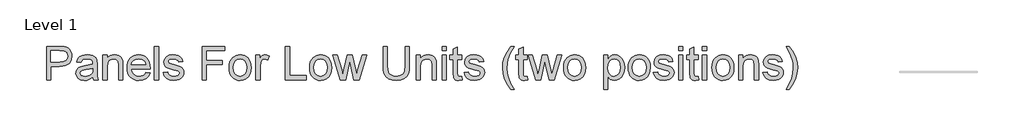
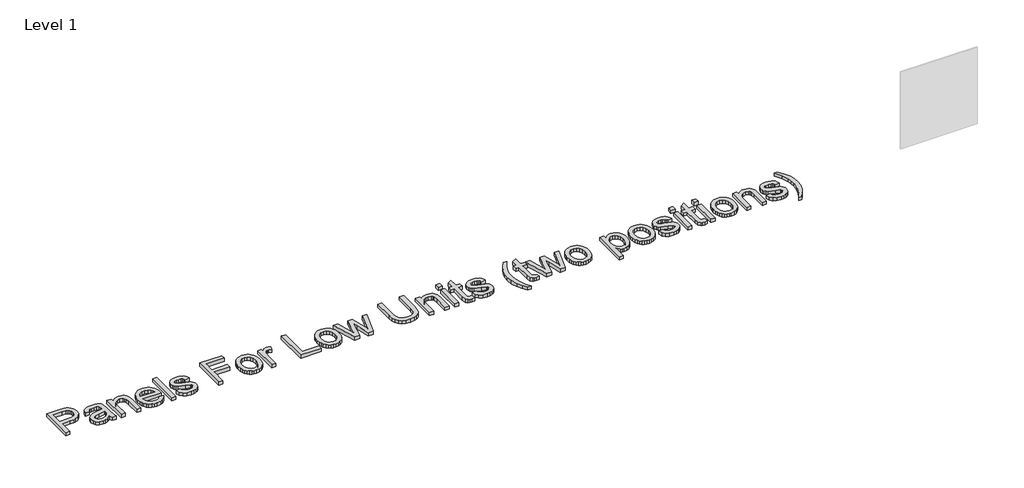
# One storey, part 3 of 5: 1 proxy.
"""IFC4 building model written with IfcOpenShell, lengths in millimetres."""

from ifc_helpers import new_model, si_unit, origin, origin_with_axes, place, context, project, spatial, polyline, outline, extrude, element, save

model = new_model("IFC4")

# Units and contexts
model_context = context("Model", 3, world=origin())
ifc_project = project(units=[si_unit("LENGTHUNIT", "METRE", prefix="MILLI")], contexts=[model_context])

# Site, building, storey
site = spatial("IfcSite", under=ifc_project)
building = spatial("IfcBuilding", under=site)
storey = spatial("IfcBuildingStorey", under=building, Name="Level 1", Elevation=0.0)

# Proxy
placement = place(None, origin())
element("IfcBuildingElementProxy", 1, Name="24\" Arial", ObjectType="24\" Arial", at=placement, inside=storey, context=model_context, shape_type="SweptSolid", body=[
    extrude(outline(polyline([(-20071.3800596, 3320.4023195), (-20071.3800596, 3570.4946272), (-19978.6944826, 3570.4946272), (-19941.3271749, 3568.1133772), (-19924.6660571, 3563.6637979), (-19910.950973, 3556.4208291), (-19899.9071629, 3546.0562858), (-19891.2598672, 3532.2419829), (-19885.6730884, 3515.9472113), (-19883.8108288, 3498.1412618), (-19888.8404562, 3468.6656608), (-19903.9293384, 3444.1052041), (-19916.0130373, 3434.4351921), (-19932.1456245, 3427.5280406), (-19952.3270998, 3423.3837498), (-19976.5574634, 3422.0023195), (-20040.1185211, 3422.0023195), (-20040.1185211, 3320.4023195), (-20071.3800596, 3320.4023195)]), holes=[polyline([(-20040.1185211, 3453.2638579), (-19974.7257326, 3453.2638579), (-19947.0055403, 3456.1335695), (-19928.6882326, 3464.7427041), (-19918.4763336, 3478.557007), (-19915.0723672, 3497.0422233), (-19917.0796389, 3511.0854926), (-19923.1014538, 3522.9306849), (-19932.3898552, 3531.8451079), (-19944.1968865, 3537.0960695), (-19975.4584249, 3539.2330887), (-20040.1185211, 3539.2330887), (-20040.1185211, 3453.2638579)])]), origin_with_axes(), (0.0, 0.0, 1.0), 25.4),
    extrude(outline(polyline([(-19727.5031365, 3343.8484733), (-19742.4393745, 3331.0416224), (-19757.8182807, 3322.6614541), (-19773.990937, 3318.0363339), (-19791.3084249, 3316.4946272), (-19817.433485, 3320.203882), (-19836.7048192, 3331.3316464), (-19848.5881725, 3348.2293628), (-19852.5492903, 3369.2484733), (-19851.0533769, 3382.2079685), (-19846.5656365, 3393.9768387), (-19830.8432807, 3411.9278003), (-19808.954098, 3422.1854926), (-19781.9055403, 3426.8869349), (-19727.6863096, 3437.6330887), (-19727.5031365, 3444.5936656), (-19729.6554201, 3458.5453483), (-19736.1122711, 3467.6734733), (-19750.5524153, 3474.4508772), (-19770.6709249, 3476.7100118), (-19789.2935211, 3475.2064661), (-19802.2988096, 3470.6958291), (-19811.1674394, 3462.3538219), (-19817.3800596, 3449.3561656), (-19848.641598, 3453.2638579), (-19843.2150956, 3470.3600118), (-19835.1173192, 3483.7927041), (-19823.5926797, 3494.0656608), (-19807.8855884, 3501.6826079), (-19788.675312, 3506.3993147), (-19766.6411172, 3507.9715503), (-19745.5075235, 3506.5824878), (-19728.7548192, 3502.4153003), (-19716.1235091, 3496.1492546), (-19707.354098, 3488.4636176), (-19697.7680403, 3467.2460695), (-19696.241598, 3439.8922233), (-19696.241598, 3400.9984733), (-19694.654098, 3346.687656), (-19688.4262134, 3320.4023195), (-19719.6877519, 3320.4023195), (-19727.5031365, 3343.8484733)]), holes=[polyline([(-19727.5031365, 3406.3715503), (-19777.9367903, 3396.7854926), (-19804.8327038, 3391.7177041), (-19817.0137134, 3383.4749156), (-19821.2877519, 3371.4465503), (-19818.9599273, 3362.1505166), (-19811.9764538, 3354.5335695), (-19800.4899754, 3349.4505166), (-19784.6531365, 3347.7561656), (-19767.8622711, 3349.6260575), (-19753.0252519, 3355.2357329), (-19740.9968865, 3363.501418), (-19732.6319826, 3373.3393387), (-19728.9227278, 3383.4749156), (-19727.6863096, 3397.5181849), (-19727.5031365, 3406.3715503)])]), origin_with_axes(), (0.0, 0.0, 1.0), 25.4),
    extrude(outline(polyline([(-19653.2569826, 3320.4023195), (-19653.2569826, 3504.0638579), (-19621.9954442, 3504.0638579), (-19621.9954442, 3478.4196272), (-19611.1348071, 3491.3485935), (-19598.0913576, 3500.5835695), (-19582.8650956, 3506.1245551), (-19565.4560211, 3507.9715503), (-19535.9346269, 3502.0184253), (-19524.1657567, 3495.1341704), (-19515.7855884, 3486.387656), (-19506.4132326, 3463.3994349), (-19504.7646749, 3433.1758772), (-19504.7646749, 3320.4023195), (-19536.0262134, 3320.4023195), (-19536.0262134, 3428.9628964), (-19539.6286172, 3456.622031), (-19544.6124514, 3464.8571873), (-19552.3591461, 3471.2453483), (-19573.8209249, 3476.7100118), (-19592.1306004, 3473.6418628), (-19607.738473, 3464.4374156), (-19618.4312014, 3446.6543628), (-19621.9954442, 3417.8503964), (-19621.9954442, 3320.4023195), (-19653.2569826, 3320.4023195)])), origin_with_axes(), (0.0, 0.0, 1.0), 25.4),
    extrude(outline(polyline([(-19333.1925596, 3375.1100118), (-19302.541598, 3371.2023195), (-19313.5854081, 3348.1072474), (-19331.2081846, 3330.8431849), (-19355.0130523, 3320.0817666), (-19384.6031365, 3316.4946272), (-19404.0004021, 3318.0420581), (-19421.2835451, 3322.6843507), (-19436.4525656, 3330.4215052), (-19449.5074634, 3341.2535214), (-19460.0055704, 3354.8789271), (-19467.5042182, 3370.9962498), (-19472.0034069, 3389.6054896), (-19473.5031365, 3410.7066464), (-19471.9881425, 3432.5233231), (-19467.4431605, 3451.7526801), (-19459.8681906, 3468.3947173), (-19449.2632326, 3482.4494349), (-19436.2426797, 3493.6153604), (-19421.4209249, 3501.5910214), (-19404.7979682, 3506.376418), (-19386.3738096, 3507.9715503), (-19368.5430553, 3506.3802342), (-19352.4181004, 3501.6062858), (-19337.9989448, 3493.6497053), (-19325.2855884, 3482.5104926), (-19314.9076888, 3468.4863039), (-19307.4949033, 3451.8747954), (-19303.047232, 3432.6759673), (-19301.5646749, 3410.8898195), (-19301.747848, 3402.4638579), (-19442.241598, 3402.4638579), (-19436.83036, 3379.0634974), (-19424.2601076, 3361.8604926), (-19406.1183408, 3351.2822474), (-19383.9925596, 3347.7561656), (-19367.3543384, 3349.3894589), (-19353.341598, 3354.2893387), (-19341.9543384, 3362.7610935), (-19333.1925596, 3375.1100118)]), holes=[polyline([(-19442.241598, 3433.7253964), (-19332.8262134, 3433.7253964), (-19337.0544586, 3450.2415022), (-19345.3430403, 3462.0561656), (-19363.5687615, 3473.0465503), (-19386.4959249, 3476.7100118), (-19407.568461, 3473.7868748), (-19424.9927999, 3465.0174637), (-19437.1051196, 3451.3481729), (-19442.241598, 3433.7253964)])]), origin_with_axes(), (0.0, 0.0, 1.0), 25.4),
    extrude(outline(polyline([(-19270.3031365, 3320.4023195), (-19270.3031365, 3570.4946272), (-19239.041598, 3570.4946272), (-19239.041598, 3320.4023195), (-19270.3031365, 3320.4023195)])), origin_with_axes(), (0.0, 0.0, 1.0), 25.4),
    extrude(outline(polyline([(-19203.8723672, 3375.1100118), (-19172.6108288, 3379.0177041), (-19167.6804201, 3365.6460695), (-19158.1401557, 3355.815781), (-19143.9289778, 3349.7710695), (-19124.9858288, 3347.7561656), (-19106.2716461, 3349.6031608), (-19093.1137134, 3355.1441464), (-19085.3288576, 3363.1732329), (-19082.7339057, 3372.484531), (-19085.3441221, 3380.4525599), (-19093.1747711, 3386.5278003), (-19125.3521749, 3395.4422233), (-19172.4276557, 3410.7371753), (-19184.3415379, 3418.4228123), (-19192.9735692, 3428.5965503), (-19198.2168985, 3440.6096512), (-19199.9646749, 3453.8133772), (-19194.3473672, 3477.1068868), (-19179.0218865, 3494.9052041), (-19159.1476076, 3504.1554445), (-19132.2516942, 3507.9715503), (-19111.9042182, 3506.4374757), (-19094.2127519, 3501.8352522), (-19079.9863096, 3494.6151801), (-19070.0339057, 3485.2275599), (-19063.4396749, 3472.9778604), (-19059.2877519, 3457.1715503), (-19090.5492903, 3453.2638579), (-19094.4951437, 3463.1017786), (-19102.3028961, 3470.512656), (-19114.0488696, 3475.1606729), (-19129.8093865, 3476.7100118), (-19147.760348, 3475.2293628), (-19159.7276557, 3470.7874156), (-19166.4592663, 3464.3763579), (-19168.7031365, 3456.9883772), (-19164.9786172, 3447.890781), (-19153.316598, 3440.9912618), (-19126.3901557, 3434.3359733), (-19080.5052999, 3419.6210695), (-19068.385348, 3412.5841704), (-19059.1961653, 3402.9523195), (-19053.4033168, 3390.6949878), (-19051.4723672, 3375.7816464), (-19053.7391341, 3360.3645791), (-19060.5394346, 3345.8633772), (-19071.6137735, 3333.4152402), (-19086.7026557, 3324.1573676), (-19104.9283769, 3318.4103123), (-19125.4132326, 3316.4946272), (-19156.9342663, 3320.1886176), (-19179.9377519, 3331.2705887), (-19195.2937615, 3349.6184253), (-19203.8723672, 3375.1100118)])), origin_with_axes(), (0.0, 0.0, 1.0), 25.4),
    extrude(outline(polyline([(-18914.7031365, 3320.4023195), (-18914.7031365, 3570.4946272), (-18746.6723672, 3570.4946272), (-18746.6723672, 3539.2330887), (-18883.441598, 3539.2330887), (-18883.441598, 3464.9869349), (-18766.2108288, 3464.9869349), (-18766.2108288, 3433.7253964), (-18883.441598, 3433.7253964), (-18883.441598, 3320.4023195), (-18914.7031365, 3320.4023195)])), origin_with_axes(), (0.0, 0.0, 1.0), 25.4),
    extrude(outline(polyline([(-18715.4108288, 3412.2330887), (-18713.7202939, 3436.018876), (-18708.6486894, 3456.5151801), (-18700.1960151, 3473.722001), (-18688.3622711, 3487.6393387), (-18663.2980884, 3502.8884974), (-18633.2882326, 3507.9715503), (-18616.0413426, 3506.4241194), (-18600.4468264, 3501.7818267), (-18586.504684, 3494.0446723), (-18574.2149153, 3483.212656), (-18564.1842813, 3469.6521242), (-18557.0195427, 3453.7294229), (-18552.7206996, 3435.4445521), (-18551.2877519, 3414.7975118), (-18553.8216461, 3383.2154204), (-18561.4233288, 3359.1739541), (-18573.8714658, 3341.1695671), (-18590.944723, 3327.6987137), (-18611.2235091, 3319.2956488), (-18633.2882326, 3316.4946272), (-18650.7869856, 3318.0363339), (-18666.5265139, 3322.6614541), (-18680.5068174, 3330.3699878), (-18692.7278961, 3341.1619349), (-18702.6516791, 3354.8541224), (-18709.7400956, 3371.2633772), (-18713.9931455, 3390.3896993), (-18715.4108288, 3412.2330887)]), holes=[polyline([(-18684.1492903, 3412.2941464), (-18680.5316221, 3384.0015382), (-18669.6786172, 3363.8448676), (-18653.3456846, 3351.7783411), (-18633.2882326, 3347.7561656), (-18613.3223672, 3351.8012378), (-18597.0199634, 3363.9364541), (-18586.1669586, 3384.3602522), (-18582.5492903, 3413.2710695), (-18586.1898552, 3440.7393988), (-18597.1115499, 3460.6213099), (-18613.4368504, 3472.6878363), (-18633.2882326, 3476.7100118), (-18653.3456846, 3472.7031007), (-18669.6786172, 3460.6823676), (-18680.5316221, 3440.5714902), (-18684.1492903, 3412.2941464)])]), origin_with_axes(), (0.0, 0.0, 1.0), 25.4),
    extrude(outline(polyline([(-18516.1185211, 3320.4023195), (-18516.1185211, 3504.0638579), (-18488.7646749, 3504.0638579), (-18488.7646749, 3476.8931849), (-18478.6596269, 3492.6460695), (-18469.3483288, 3501.9268387), (-18449.8098672, 3507.9715503), (-18434.2401557, 3505.5597714), (-18418.4262134, 3498.3244349), (-18428.8670788, 3470.2989541), (-18450.847848, 3476.7100118), (-18460.1820427, 3475.1683051), (-18468.5240499, 3470.5431849), (-18479.7891942, 3453.447031), (-18484.8569826, 3416.934531), (-18484.8569826, 3320.4023195), (-18516.1185211, 3320.4023195)])), origin_with_axes(), (0.0, 0.0, 1.0), 25.4),
    extrude(outline(polyline([(-18297.2877519, 3320.4023195), (-18297.2877519, 3570.4946272), (-18266.0262134, 3570.4946272), (-18266.0262134, 3351.6638579), (-18140.9800596, 3351.6638579), (-18140.9800596, 3320.4023195), (-18297.2877519, 3320.4023195)])), origin_with_axes(), (0.0, 0.0, 1.0), 25.4),
    extrude(outline(polyline([(-18117.5339057, 3412.2330887), (-18115.8433709, 3436.018876), (-18110.7717663, 3456.5151801), (-18102.319092, 3473.722001), (-18090.485348, 3487.6393387), (-18065.4211653, 3502.8884974), (-18035.4113096, 3507.9715503), (-18018.1644195, 3506.4241194), (-18002.5699033, 3501.7818267), (-17988.6277609, 3494.0446723), (-17976.3379922, 3483.212656), (-17966.3073582, 3469.6521242), (-17959.1426196, 3453.7294229), (-17954.8437765, 3435.4445521), (-17953.4108288, 3414.7975118), (-17955.944723, 3383.2154204), (-17963.5464057, 3359.1739541), (-17975.9945427, 3341.1695671), (-17993.0677999, 3327.6987137), (-18013.346586, 3319.2956488), (-18035.4113096, 3316.4946272), (-18052.9100626, 3318.0363339), (-18068.6495908, 3322.6614541), (-18082.6298943, 3330.3699878), (-18094.850973, 3341.1619349), (-18104.7747561, 3354.8541224), (-18111.8631725, 3371.2633772), (-18116.1162224, 3390.3896993), (-18117.5339057, 3412.2330887)]), holes=[polyline([(-18086.2723672, 3412.2941464), (-18082.654699, 3384.0015382), (-18071.8016942, 3363.8448676), (-18055.4687615, 3351.7783411), (-18035.4113096, 3347.7561656), (-18015.4454442, 3351.8012378), (-17999.1430403, 3363.9364541), (-17988.2900355, 3384.3602522), (-17984.6723672, 3413.2710695), (-17988.3129321, 3440.7393988), (-17999.2346269, 3460.6213099), (-18015.5599273, 3472.6878363), (-18035.4113096, 3476.7100118), (-18055.4687615, 3472.7031007), (-18071.8016942, 3460.6823676), (-18082.654699, 3440.5714902), (-18086.2723672, 3412.2941464)])]), origin_with_axes(), (0.0, 0.0, 1.0), 25.4),
    extrude(outline(polyline([(-17887.7738096, 3320.4023195), (-17943.641598, 3504.0638579), (-17911.1589057, 3504.0638579), (-17879.4699634, 3396.9076079), (-17870.0060211, 3358.6244349), (-17862.2516942, 3395.503281), (-17837.0348672, 3504.0638579), (-17799.7896749, 3504.0638579), (-17774.6949634, 3395.8085695), (-17767.7954442, 3362.4100118), (-17757.904098, 3397.6403003), (-17726.154098, 3504.0638579), (-17693.5492903, 3504.0638579), (-17749.8444826, 3320.4023195), (-17787.6391942, 3320.4023195), (-17811.6348672, 3428.1080887), (-17818.5954442, 3461.6898195), (-17849.5516942, 3320.4023195), (-17887.7738096, 3320.4023195)])), origin_with_axes(), (0.0, 0.0, 1.0), 25.4),
    extrude(outline(polyline([(-17406.3339057, 3570.4946272), (-17375.0723672, 3570.4946272), (-17375.0723672, 3426.2153003), (-17377.1941221, 3392.4274998), (-17383.5593865, 3366.4092906), (-17395.4503721, 3346.3365743), (-17414.1492903, 3330.3852522), (-17439.7019346, 3319.9672834), (-17472.154098, 3316.4946272), (-17503.8964658, 3319.5169829), (-17529.2735692, 3328.5840503), (-17548.2930403, 3343.3829084), (-17560.9625115, 3363.6006368), (-17568.0833648, 3390.7178844), (-17570.4569826, 3426.2153003), (-17570.4569826, 3570.4946272), (-17539.1954442, 3570.4946272), (-17539.1954442, 3427.3143387), (-17537.6537374, 3399.220168), (-17533.0286172, 3379.6588099), (-17524.648449, 3366.1116344), (-17511.841598, 3356.0600118), (-17495.1423192, 3349.8321272), (-17475.0848672, 3347.7561656), (-17443.289074, 3351.8622954), (-17422.147848, 3364.1806849), (-17415.2292483, 3374.2857329), (-17410.2873913, 3388.1763579), (-17406.3339057, 3427.3143387), (-17406.3339057, 3570.4946272)])), origin_with_axes(), (0.0, 0.0, 1.0), 25.4),
    extrude(outline(polyline([(-17324.2723672, 3320.4023195), (-17324.2723672, 3504.0638579), (-17293.0108288, 3504.0638579), (-17293.0108288, 3478.4196272), (-17282.1501918, 3491.3485935), (-17269.1067422, 3500.5835695), (-17253.8804802, 3506.1245551), (-17236.4714057, 3507.9715503), (-17206.9500115, 3502.0184253), (-17195.1811413, 3495.1341704), (-17186.800973, 3486.387656), (-17177.4286172, 3463.3994349), (-17175.7800596, 3433.1758772), (-17175.7800596, 3320.4023195), (-17207.041598, 3320.4023195), (-17207.041598, 3428.9628964), (-17210.6440019, 3456.622031), (-17215.627836, 3464.8571873), (-17223.3745307, 3471.2453483), (-17244.8363096, 3476.7100118), (-17263.145985, 3473.6418628), (-17278.7538576, 3464.4374156), (-17289.446586, 3446.6543628), (-17293.0108288, 3417.8503964), (-17293.0108288, 3320.4023195), (-17324.2723672, 3320.4023195)])), origin_with_axes(), (0.0, 0.0, 1.0), 25.4),
    extrude(outline(polyline([(-17132.7954442, 3320.4023195), (-17132.7954442, 3504.0638579), (-17101.5339057, 3504.0638579), (-17101.5339057, 3320.4023195), (-17132.7954442, 3320.4023195)])), origin_with_axes(), (0.0, 0.0, 1.0), 25.4),
    extrude(outline(polyline([(-17132.7954442, 3539.2330887), (-17132.7954442, 3570.4946272), (-17101.5339057, 3570.4946272), (-17101.5339057, 3539.2330887), (-17132.7954442, 3539.2330887)])), origin_with_axes(), (0.0, 0.0, 1.0), 25.4),
    extrude(outline(polyline([(-16988.2108288, 3346.4739541), (-16984.3031365, 3319.4864541), (-17007.6882326, 3316.4946272), (-17022.6931605, 3317.7921031), (-17033.8819826, 3321.684531), (-17046.9483288, 3335.3003964), (-17050.7339057, 3370.7749156), (-17050.7339057, 3472.8023195), (-17074.1800596, 3472.8023195), (-17074.1800596, 3504.0638579), (-17050.7339057, 3504.0638579), (-17050.7339057, 3548.697031), (-17019.4723672, 3567.0753964), (-17019.4723672, 3504.0638579), (-16988.2108288, 3504.0638579), (-16988.2108288, 3472.8023195), (-17019.4723672, 3472.8023195), (-17019.4723672, 3371.690781), (-17017.8238096, 3355.5715503), (-17012.4812615, 3349.862656), (-17001.8266942, 3347.7561656), (-16988.2108288, 3346.4739541)])), origin_with_axes(), (0.0, 0.0, 1.0), 25.4),
    extrude(outline(polyline([(-16968.6723672, 3375.1100118), (-16937.4108288, 3379.0177041), (-16932.4804201, 3365.6460695), (-16922.9401557, 3355.815781), (-16908.7289778, 3349.7710695), (-16889.7858288, 3347.7561656), (-16871.0716461, 3349.6031608), (-16857.9137134, 3355.1441464), (-16850.1288576, 3363.1732329), (-16847.5339057, 3372.484531), (-16850.1441221, 3380.4525599), (-16857.9747711, 3386.5278003), (-16890.1521749, 3395.4422233), (-16937.2276557, 3410.7371753), (-16949.1415379, 3418.4228123), (-16957.7735692, 3428.5965503), (-16963.0168985, 3440.6096512), (-16964.7646749, 3453.8133772), (-16959.1473672, 3477.1068868), (-16943.8218865, 3494.9052041), (-16923.9476076, 3504.1554445), (-16897.0516942, 3507.9715503), (-16876.7042182, 3506.4374757), (-16859.0127519, 3501.8352522), (-16844.7863096, 3494.6151801), (-16834.8339057, 3485.2275599), (-16828.2396749, 3472.9778604), (-16824.0877519, 3457.1715503), (-16855.3492903, 3453.2638579), (-16859.2951437, 3463.1017786), (-16867.1028961, 3470.512656), (-16878.8488696, 3475.1606729), (-16894.6093865, 3476.7100118), (-16912.560348, 3475.2293628), (-16924.5276557, 3470.7874156), (-16931.2592663, 3464.3763579), (-16933.5031365, 3456.9883772), (-16929.7786172, 3447.890781), (-16918.116598, 3440.9912618), (-16891.1901557, 3434.3359733), (-16845.3052999, 3419.6210695), (-16833.185348, 3412.5841704), (-16823.9961653, 3402.9523195), (-16818.2033168, 3390.6949878), (-16816.2723672, 3375.7816464), (-16818.5391341, 3360.3645791), (-16825.3394346, 3345.8633772), (-16836.4137735, 3333.4152402), (-16851.5026557, 3324.1573676), (-16869.7283769, 3318.4103123), (-16890.2132326, 3316.4946272), (-16921.7342663, 3320.1886176), (-16944.7377519, 3331.2705887), (-16960.0937615, 3349.6184253), (-16968.6723672, 3375.1100118)])), origin_with_axes(), (0.0, 0.0, 1.0), 25.4),
    extrude(outline(polyline([(-16620.8877519, 3250.0638579), (-16645.1123913, 3284.0577281), (-16665.2766942, 3323.3941464), (-16678.8772951, 3366.1650599), (-16683.4108288, 3410.4624156), (-16680.0221269, 3449.3103724), (-16669.8560211, 3486.4792426), (-16649.6764538, 3528.5785214), (-16620.8877519, 3570.4946272), (-16597.441598, 3570.4946272), (-16626.6882326, 3520.9768387), (-16644.272848, 3472.9854926), (-16650.1801797, 3441.7086897), (-16652.1492903, 3410.2792426), (-16648.7300596, 3370.2024998), (-16638.4723672, 3330.1410214), (-16621.3762134, 3290.0948075), (-16597.441598, 3250.0638579), (-16620.8877519, 3250.0638579)])), origin_with_axes(), (0.0, 0.0, 1.0), 25.4),
    extrude(outline(polyline([(-16499.7492903, 3346.4739541), (-16495.841598, 3319.4864541), (-16519.2266942, 3316.4946272), (-16534.2316221, 3317.7921031), (-16545.4204442, 3321.684531), (-16558.4867903, 3335.3003964), (-16562.2723672, 3370.7749156), (-16562.2723672, 3472.8023195), (-16585.7185211, 3472.8023195), (-16585.7185211, 3504.0638579), (-16562.2723672, 3504.0638579), (-16562.2723672, 3548.697031), (-16531.0108288, 3567.0753964), (-16531.0108288, 3504.0638579), (-16499.7492903, 3504.0638579), (-16499.7492903, 3472.8023195), (-16531.0108288, 3472.8023195), (-16531.0108288, 3371.690781), (-16529.3622711, 3355.5715503), (-16524.019723, 3349.862656), (-16513.3651557, 3347.7561656), (-16499.7492903, 3346.4739541)])), origin_with_axes(), (0.0, 0.0, 1.0), 25.4),
    extrude(outline(polyline([(-16438.0199634, 3320.4023195), (-16493.8877519, 3504.0638579), (-16461.4050596, 3504.0638579), (-16429.7161172, 3396.9076079), (-16420.2521749, 3358.6244349), (-16412.497848, 3395.503281), (-16387.2810211, 3504.0638579), (-16350.0358288, 3504.0638579), (-16324.9411172, 3395.8085695), (-16318.041598, 3362.4100118), (-16308.1502519, 3397.6403003), (-16276.4002519, 3504.0638579), (-16243.7954442, 3504.0638579), (-16300.0906365, 3320.4023195), (-16337.885348, 3320.4023195), (-16361.8810211, 3428.1080887), (-16368.841598, 3461.6898195), (-16399.797848, 3320.4023195), (-16438.0199634, 3320.4023195)])), origin_with_axes(), (0.0, 0.0, 1.0), 25.4),
    extrude(outline(polyline([(-16230.1185211, 3412.2330887), (-16228.4279862, 3436.018876), (-16223.3563817, 3456.5151801), (-16214.9037074, 3473.722001), (-16203.0699634, 3487.6393387), (-16178.0057807, 3502.8884974), (-16147.9959249, 3507.9715503), (-16130.7490349, 3506.4241194), (-16115.1545187, 3501.7818267), (-16101.2123763, 3494.0446723), (-16088.9226076, 3483.212656), (-16078.8919736, 3469.6521242), (-16071.727235, 3453.7294229), (-16067.4283919, 3435.4445521), (-16065.9954442, 3414.7975118), (-16068.5293384, 3383.2154204), (-16076.1310211, 3359.1739541), (-16088.5791581, 3341.1695671), (-16105.6524153, 3327.6987137), (-16125.9312014, 3319.2956488), (-16147.9959249, 3316.4946272), (-16165.4946779, 3318.0363339), (-16181.2342062, 3322.6614541), (-16195.2145097, 3330.3699878), (-16207.4355884, 3341.1619349), (-16217.3593715, 3354.8541224), (-16224.4477879, 3371.2633772), (-16228.7008378, 3390.3896993), (-16230.1185211, 3412.2330887)]), holes=[polyline([(-16198.8569826, 3412.2941464), (-16195.2393144, 3384.0015382), (-16184.3863096, 3363.8448676), (-16168.0533769, 3351.7783411), (-16147.9959249, 3347.7561656), (-16128.0300596, 3351.8012378), (-16111.7276557, 3363.9364541), (-16100.8746509, 3384.3602522), (-16097.2569826, 3413.2710695), (-16100.8975475, 3440.7393988), (-16111.8192422, 3460.6213099), (-16128.1445427, 3472.6878363), (-16147.9959249, 3476.7100118), (-16168.0533769, 3472.7031007), (-16184.3863096, 3460.6823676), (-16195.2393144, 3440.5714902), (-16198.8569826, 3412.2941464)])]), origin_with_axes(), (0.0, 0.0, 1.0), 25.4),
    extrude(outline(polyline([(-15933.1339057, 3250.0638579), (-15933.1339057, 3504.0638579), (-15901.8723672, 3504.0638579), (-15901.8723672, 3473.4128964), (-15891.6757326, 3488.5323075), (-15880.2579442, 3499.3318868), (-15866.9473672, 3505.8116344), (-15851.0723672, 3507.9715503), (-15829.9311413, 3504.9491945), (-15811.4459249, 3495.8821272), (-15796.3952038, 3481.3198676), (-15785.5574634, 3461.8119349), (-15779.0090259, 3438.7779204), (-15776.8262134, 3413.6374156), (-15779.2914177, 3386.9017786), (-15786.6870307, 3362.9900599), (-15798.7764538, 3343.115781), (-15815.3230884, 3328.4924637), (-15834.5944225, 3319.4940863), (-15854.8579442, 3316.4946272), (-15869.2293985, 3318.5018988), (-15882.0591461, 3324.5237137), (-15901.8723672, 3344.8253964), (-15901.8723672, 3250.0638579), (-15933.1339057, 3250.0638579)]), holes=[polyline([(-15901.8723672, 3410.7677041), (-15898.4912975, 3382.7422233), (-15888.3480884, 3363.1427041), (-15873.3813216, 3351.6028003), (-15855.5295788, 3347.7561656), (-15837.387812, 3351.7401801), (-15822.0394346, 3363.6922233), (-15811.5756725, 3384.0091704), (-15808.0877519, 3413.0878964), (-15811.4917182, 3440.9607329), (-15821.7036172, 3460.8350118), (-15836.6474874, 3472.7412618), (-15854.2473672, 3476.7100118), (-15871.915937, 3472.4893988), (-15887.432223, 3459.8275599), (-15898.2623312, 3439.12137), (-15901.8723672, 3410.7677041)])]), origin_with_axes(), (0.0, 0.0, 1.0), 25.4),
    extrude(outline(polyline([(-15749.4723672, 3412.2330887), (-15747.7818324, 3436.018876), (-15742.7102278, 3456.5151801), (-15734.2575535, 3473.722001), (-15722.4238096, 3487.6393387), (-15697.3596269, 3502.8884974), (-15667.3497711, 3507.9715503), (-15650.1028811, 3506.4241194), (-15634.5083648, 3501.7818267), (-15620.5662224, 3494.0446723), (-15608.2764538, 3483.212656), (-15598.2458198, 3469.6521242), (-15591.0810812, 3453.7294229), (-15586.782238, 3435.4445521), (-15585.3492903, 3414.7975118), (-15587.8831846, 3383.2154204), (-15595.4848672, 3359.1739541), (-15607.9330043, 3341.1695671), (-15625.0062615, 3327.6987137), (-15645.2850475, 3319.2956488), (-15667.3497711, 3316.4946272), (-15684.8485241, 3318.0363339), (-15700.5880523, 3322.6614541), (-15714.5683558, 3330.3699878), (-15726.7894346, 3341.1619349), (-15736.7132176, 3354.8541224), (-15743.8016341, 3371.2633772), (-15748.054684, 3390.3896993), (-15749.4723672, 3412.2330887)]), holes=[polyline([(-15718.2108288, 3412.2941464), (-15714.5931605, 3384.0015382), (-15703.7401557, 3363.8448676), (-15687.407223, 3351.7783411), (-15667.3497711, 3347.7561656), (-15647.3839057, 3351.8012378), (-15631.0815019, 3363.9364541), (-15620.2284971, 3384.3602522), (-15616.6108288, 3413.2710695), (-15620.2513937, 3440.7393988), (-15631.1730884, 3460.6213099), (-15647.4983889, 3472.6878363), (-15667.3497711, 3476.7100118), (-15687.407223, 3472.7031007), (-15703.7401557, 3460.6823676), (-15714.5931605, 3440.5714902), (-15718.2108288, 3412.2941464)])]), origin_with_axes(), (0.0, 0.0, 1.0), 25.4),
    extrude(outline(polyline([(-15561.9031365, 3375.1100118), (-15530.641598, 3379.0177041), (-15525.7111894, 3365.6460695), (-15516.1709249, 3355.815781), (-15501.9597471, 3349.7710695), (-15483.016598, 3347.7561656), (-15464.3024153, 3349.6031608), (-15451.1444826, 3355.1441464), (-15443.3596269, 3363.1732329), (-15440.7646749, 3372.484531), (-15443.3748913, 3380.4525599), (-15451.2055403, 3386.5278003), (-15483.3829442, 3395.4422233), (-15530.4584249, 3410.7371753), (-15542.3723071, 3418.4228123), (-15551.0043384, 3428.5965503), (-15556.2476677, 3440.6096512), (-15557.9954442, 3453.8133772), (-15552.3781365, 3477.1068868), (-15537.0526557, 3494.9052041), (-15517.1783769, 3504.1554445), (-15490.2824634, 3507.9715503), (-15469.9349874, 3506.4374757), (-15452.2435211, 3501.8352522), (-15438.0170788, 3494.6151801), (-15428.0646749, 3485.2275599), (-15421.4704442, 3472.9778604), (-15417.3185211, 3457.1715503), (-15448.5800596, 3453.2638579), (-15452.5259129, 3463.1017786), (-15460.3336653, 3470.512656), (-15472.0796389, 3475.1606729), (-15487.8401557, 3476.7100118), (-15505.7911172, 3475.2293628), (-15517.7584249, 3470.7874156), (-15524.4900355, 3464.3763579), (-15526.7339057, 3456.9883772), (-15523.0093865, 3447.890781), (-15511.3473672, 3440.9912618), (-15484.4209249, 3434.3359733), (-15438.5360692, 3419.6210695), (-15426.4161172, 3412.5841704), (-15417.2269346, 3402.9523195), (-15411.434086, 3390.6949878), (-15409.5031365, 3375.7816464), (-15411.7699033, 3360.3645791), (-15418.5702038, 3345.8633772), (-15429.6445427, 3333.4152402), (-15444.7334249, 3324.1573676), (-15462.9591461, 3318.4103123), (-15483.4440019, 3316.4946272), (-15514.9650355, 3320.1886176), (-15537.9685211, 3331.2705887), (-15553.3245307, 3349.6184253), (-15561.9031365, 3375.1100118)])), origin_with_axes(), (0.0, 0.0, 1.0), 25.4),
    extrude(outline(polyline([(-15374.3339057, 3539.2330887), (-15374.3339057, 3570.4946272), (-15343.0723672, 3570.4946272), (-15343.0723672, 3539.2330887), (-15374.3339057, 3539.2330887)])), origin_with_axes(), (0.0, 0.0, 1.0), 25.4),
    extrude(outline(polyline([(-15374.3339057, 3320.4023195), (-15374.3339057, 3504.0638579), (-15343.0723672, 3504.0638579), (-15343.0723672, 3320.4023195), (-15374.3339057, 3320.4023195)])), origin_with_axes(), (0.0, 0.0, 1.0), 25.4),
    extrude(outline(polyline([(-15229.7492903, 3346.4739541), (-15225.841598, 3319.4864541), (-15249.2266942, 3316.4946272), (-15264.2316221, 3317.7921031), (-15275.4204442, 3321.684531), (-15288.4867903, 3335.3003964), (-15292.2723672, 3370.7749156), (-15292.2723672, 3472.8023195), (-15315.7185211, 3472.8023195), (-15315.7185211, 3504.0638579), (-15292.2723672, 3504.0638579), (-15292.2723672, 3548.697031), (-15261.0108288, 3567.0753964), (-15261.0108288, 3504.0638579), (-15229.7492903, 3504.0638579), (-15229.7492903, 3472.8023195), (-15261.0108288, 3472.8023195), (-15261.0108288, 3371.690781), (-15259.3622711, 3355.5715503), (-15254.019723, 3349.862656), (-15243.3651557, 3347.7561656), (-15229.7492903, 3346.4739541)])), origin_with_axes(), (0.0, 0.0, 1.0), 25.4),
    extrude(outline(polyline([(-15198.4877519, 3320.4023195), (-15198.4877519, 3504.0638579), (-15167.2262134, 3504.0638579), (-15167.2262134, 3320.4023195), (-15198.4877519, 3320.4023195)])), origin_with_axes(), (0.0, 0.0, 1.0), 25.4),
    extrude(outline(polyline([(-15198.4877519, 3539.2330887), (-15198.4877519, 3570.4946272), (-15167.2262134, 3570.4946272), (-15167.2262134, 3539.2330887), (-15198.4877519, 3539.2330887)])), origin_with_axes(), (0.0, 0.0, 1.0), 25.4),
    extrude(outline(polyline([(-15128.1492903, 3412.2330887), (-15126.4587555, 3436.018876), (-15121.3871509, 3456.5151801), (-15112.9344766, 3473.722001), (-15101.1007326, 3487.6393387), (-15076.0365499, 3502.8884974), (-15046.0266942, 3507.9715503), (-15028.7798041, 3506.4241194), (-15013.1852879, 3501.7818267), (-14999.2431455, 3494.0446723), (-14986.9533769, 3483.212656), (-14976.9227428, 3469.6521242), (-14969.7580043, 3453.7294229), (-14965.4591611, 3435.4445521), (-14964.0262134, 3414.7975118), (-14966.5601076, 3383.2154204), (-14974.1617903, 3359.1739541), (-14986.6099273, 3341.1695671), (-15003.6831846, 3327.6987137), (-15023.9619706, 3319.2956488), (-15046.0266942, 3316.4946272), (-15063.5254472, 3318.0363339), (-15079.2649754, 3322.6614541), (-15093.2452789, 3330.3699878), (-15105.4663576, 3341.1619349), (-15115.3901407, 3354.8541224), (-15122.4785571, 3371.2633772), (-15126.731607, 3390.3896993), (-15128.1492903, 3412.2330887)]), holes=[polyline([(-15096.8877519, 3412.2941464), (-15093.2700836, 3384.0015382), (-15082.4170788, 3363.8448676), (-15066.0841461, 3351.7783411), (-15046.0266942, 3347.7561656), (-15026.0608288, 3351.8012378), (-15009.7584249, 3363.9364541), (-14998.9054201, 3384.3602522), (-14995.2877519, 3413.2710695), (-14998.9283168, 3440.7393988), (-15009.8500115, 3460.6213099), (-15026.175312, 3472.6878363), (-15046.0266942, 3476.7100118), (-15066.0841461, 3472.7031007), (-15082.4170788, 3460.6823676), (-15093.2700836, 3440.5714902), (-15096.8877519, 3412.2941464)])]), origin_with_axes(), (0.0, 0.0, 1.0), 25.4),
    extrude(outline(polyline([(-14928.8569826, 3320.4023195), (-14928.8569826, 3504.0638579), (-14897.5954442, 3504.0638579), (-14897.5954442, 3478.4196272), (-14886.7348071, 3491.3485935), (-14873.6913576, 3500.5835695), (-14858.4650956, 3506.1245551), (-14841.0560211, 3507.9715503), (-14811.5346269, 3502.0184253), (-14799.7657567, 3495.1341704), (-14791.3855884, 3486.387656), (-14782.0132326, 3463.3994349), (-14780.3646749, 3433.1758772), (-14780.3646749, 3320.4023195), (-14811.6262134, 3320.4023195), (-14811.6262134, 3428.9628964), (-14815.2286172, 3456.622031), (-14820.2124514, 3464.8571873), (-14827.9591461, 3471.2453483), (-14849.4209249, 3476.7100118), (-14867.7306004, 3473.6418628), (-14883.338473, 3464.4374156), (-14894.0312014, 3446.6543628), (-14897.5954442, 3417.8503964), (-14897.5954442, 3320.4023195), (-14928.8569826, 3320.4023195)])), origin_with_axes(), (0.0, 0.0, 1.0), 25.4),
    extrude(outline(polyline([(-14749.1031365, 3375.1100118), (-14717.841598, 3379.0177041), (-14712.9111894, 3365.6460695), (-14703.3709249, 3355.815781), (-14689.1597471, 3349.7710695), (-14670.216598, 3347.7561656), (-14651.5024153, 3349.6031608), (-14638.3444826, 3355.1441464), (-14630.5596269, 3363.1732329), (-14627.9646749, 3372.484531), (-14630.5748913, 3380.4525599), (-14638.4055403, 3386.5278003), (-14670.5829442, 3395.4422233), (-14717.6584249, 3410.7371753), (-14729.5723071, 3418.4228123), (-14738.2043384, 3428.5965503), (-14743.4476677, 3440.6096512), (-14745.1954442, 3453.8133772), (-14739.5781365, 3477.1068868), (-14724.2526557, 3494.9052041), (-14704.3783769, 3504.1554445), (-14677.4824634, 3507.9715503), (-14657.1349874, 3506.4374757), (-14639.4435211, 3501.8352522), (-14625.2170788, 3494.6151801), (-14615.2646749, 3485.2275599), (-14608.6704442, 3472.9778604), (-14604.5185211, 3457.1715503), (-14635.7800596, 3453.2638579), (-14639.7259129, 3463.1017786), (-14647.5336653, 3470.512656), (-14659.2796389, 3475.1606729), (-14675.0401557, 3476.7100118), (-14692.9911172, 3475.2293628), (-14704.9584249, 3470.7874156), (-14711.6900355, 3464.3763579), (-14713.9339057, 3456.9883772), (-14710.2093865, 3447.890781), (-14698.5473672, 3440.9912618), (-14671.6209249, 3434.3359733), (-14625.7360692, 3419.6210695), (-14613.6161172, 3412.5841704), (-14604.4269346, 3402.9523195), (-14598.634086, 3390.6949878), (-14596.7031365, 3375.7816464), (-14598.9699033, 3360.3645791), (-14605.7702038, 3345.8633772), (-14616.8445427, 3333.4152402), (-14631.9334249, 3324.1573676), (-14650.1591461, 3318.4103123), (-14670.6440019, 3316.4946272), (-14702.1650355, 3320.1886176), (-14725.1685211, 3331.2705887), (-14740.5245307, 3349.6184253), (-14749.1031365, 3375.1100118)])), origin_with_axes(), (0.0, 0.0, 1.0), 25.4),
    extrude(outline(polyline([(-14553.7185211, 3250.0638579), (-14577.1646749, 3250.0638579), (-14553.2300596, 3290.0948075), (-14536.1339057, 3330.1410214), (-14525.8762134, 3370.2024998), (-14522.4569826, 3410.2792426), (-14524.4260932, 3441.4797233), (-14530.3334249, 3472.4359733), (-14547.7348672, 3520.4883772), (-14577.1646749, 3570.4946272), (-14553.7185211, 3570.4946272), (-14524.9298192, 3528.5785214), (-14504.7502519, 3486.4792426), (-14494.5841461, 3449.3103724), (-14491.1954442, 3410.4624156), (-14495.7518745, 3366.1650599), (-14509.4211653, 3323.3941464), (-14529.6083648, 3284.0577281), (-14553.7185211, 3250.0638579)])), origin_with_axes(), (0.0, 0.0, 1.0), 25.4),
])

save(model, "model.ifc")
